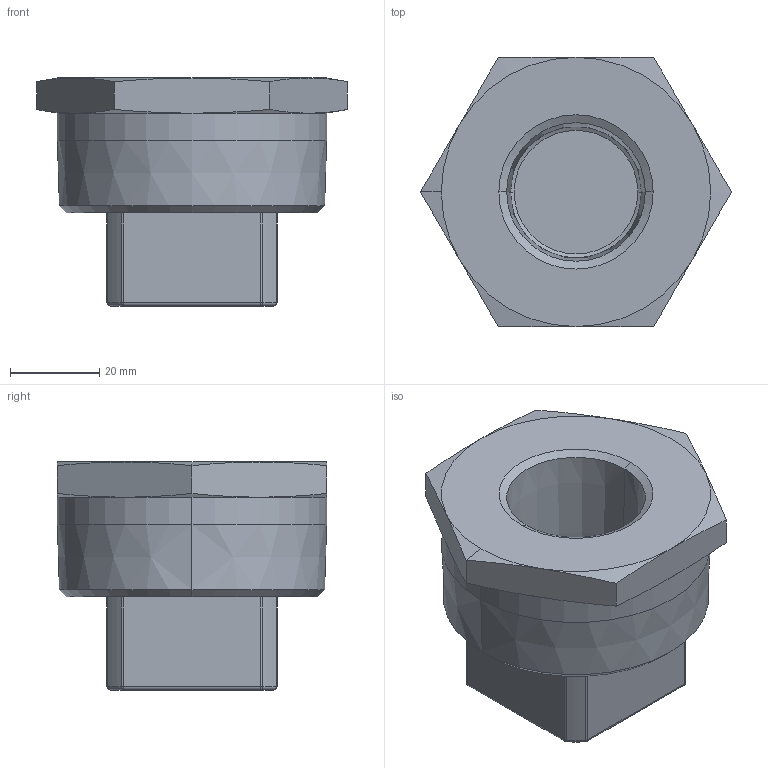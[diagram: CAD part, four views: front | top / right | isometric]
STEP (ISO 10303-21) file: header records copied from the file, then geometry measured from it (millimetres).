
FILE_DESCRIPTION (( 'STEP AP203' ), '1' );
FILE_NAME ('1 BSS.step', '2016-04-22T20:06:01', ( '' ), ( '' ), 'SwSTEP 2.0', 'SolidWorks 2015', '' );
FILE_SCHEMA (( 'CONFIG_CONTROL_DESIGN' ));
Length unit declared in the file: inch
Products named in the file (1): 1 BSS
Bounding box: 69.66 x 60.33 x 51.08 mm (x, y, z)
Volume: 95836.2 mm3; surface area: 17421.5 mm2
Topology: 1 solids, 1 shells, 70 faces, 153 edges, 83 vertices
Faces by surface type: cone 24, cylinder 20, plane 14, sphere 8, torus 4
Entity records: 2007 total; most frequent: CARTESIAN_POINT 423, DIRECTION 342, ORIENTED_EDGE 298, EDGE_CURVE 149, AXIS2_PLACEMENT_3D 146, VERTEX_POINT 83, CIRCLE 75, EDGE_LOOP 72
